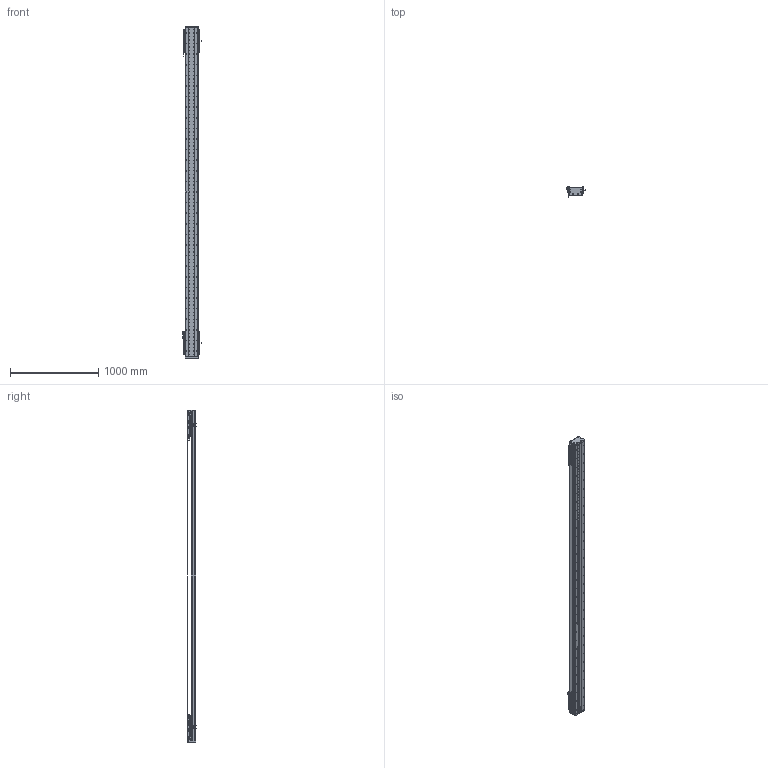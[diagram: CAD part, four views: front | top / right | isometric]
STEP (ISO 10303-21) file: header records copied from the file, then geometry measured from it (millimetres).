
FILE_DESCRIPTION (( 'STEP AP203' ), '1' );
FILE_NAME ('DA-C145-2-C3-T3140-C010-0.2 眻盄萇儂.STEP', '2025-08-14T00:40:06', ( '' ), ( '' ), 'SwSTEP 2.0', 'SolidWorks 2019', '' );
FILE_SCHEMA (( 'CONFIG_CONTROL_DESIGN' ));
Length unit declared in the file: millimetre
Products named in the file (38): 葩璃 CU145 詩湍郪璃^DA-C145-2-C3-T-C010-0.2; IU-CU145-L 菁釱絳寢; 复件 DA145-C3-YB-A-00 压板A^CU145-W 滚珠滑台; DKW-KGZ-ZJ-00 中间光电开关支架; 葩璃 DMA-010-0.2 黍杅芛^DA-C145-2-C3-T-C010-0.2; CU145-W 幗紩賑怢-1; 葩璃 XD-U-02L 棠掑喜^DA-C145-2-C3-T-C010-0.2; 复件 内六角平端紧定螺钉 GB.T77-2000 M5×10^CU145-W 滚珠滑台; DKW168-HXJ-ZJ-00 笢潔滅袉砎蝶; TAY01-M8; CU145-W-00 珨极趙賑雄怢啣; 复件 DA95-MFP-01 密封片^CU145-W 滚珠滑台; 复件 DA146 钢带拉块^复件 CU145 钢带组件_DA-C145-2-C3-T-C010-0.2; 葩璃 PM-T45^DA-C145-2-C3-T-C010-0.2; 葩璃 DA95-GT-T-00^IU-CU145-L 菁釱絳寢; 复件 DA145-C3-DK-00 挡块^CU145-W 滚珠滑台; 葩璃 PM-Y65^DA-C145-2-C3-T-C010-0.2; 复件 DA95-DB-00  挡板^CU145-W 滚珠滑台; 葩璃 CKMA01-W060-TRL^DA-C145-2-C3-T-C010-0.2; 复件 DA145 钢带^复件 CU145 钢带组件_DA-C145-2-C3-T-C010-0.2; 复件 纯铜油杯 6x6mm^CU145-W 滚珠滑台; CU145-W 幗紩賑怢; 葩璃 DA145-C3-DP-A-00 菜えA^CU145-W 幗紩賑怢; IU-CU145-L-00 菁釱(L3720); DA-C145-2-C3-T3140-C010-0.2 眻盄萇儂; 复件 DA145-C3-YB-B-00 压板B^CU145-W 滚珠滑台; 葩璃 鞠褒情蹟譫 M3^DA-C145-2-C3-T-C010-0.2; 葩璃 DA145-C3-DP-B-00 菜えB^CU145-W 幗紩賑怢; 复件 DA95-HK-GT-00 滑块钢轨^CU145-W-00 一体化滑动台板; 葩璃 CKM03-W060-C1C2-TP-0.2^DA-C145-2-C3-T-C010-0.2; CU145-W-00 珨极趙賑雄怢啣-1; 复件 DA146 钢带垫块^复件 CU145 钢带组件_DA-C145-2-C3-T-C010-0.2; 复件 DA145-GYP-00 光电感应片^DA-C145-2-C3-T-C010-0.2; 66245-CU145-HT-W-00 賑雄怢啣(3D芞祧)(00); DKW-GYP-ZJ-00 笢潔嫖萇覜茼え; 复件 DA145-DG 钢带端盖^复件 CU145 钢带组件_DA-C145-2-C3-T-C010-0.2; 复件 半圆头内六角螺钉 M3×6^CU145-W 滚珠滑台; 葩璃 DA95-HXJ-00 遣喳砎蝶^DA-C145-2-C3-T-C010-0.2
Assembly tree (180 placements, depth 4):
  DA-C145-2-C3-T3140-C010-0.2 眻盄萇儂
    IU-CU145-L 菁釱絳寢
      IU-CU145-L-00 菁釱(L3720)
      葩璃 DA95-GT-T-00^IU-CU145-L 菁釱絳寢  x4
    葩璃 CU145 詩湍郪璃^DA-C145-2-C3-T-C010-0.2
      复件 DA145-DG 钢带端盖^复件 CU145 钢带组件_DA-C145-2-C3-T-C010-0.2  x2
      复件 DA146 钢带拉块^复件 CU145 钢带组件_DA-C145-2-C3-T-C010-0.2  x2
      复件 DA146 钢带垫块^复件 CU145 钢带组件_DA-C145-2-C3-T-C010-0.2  x2
      复件 DA145 钢带^复件 CU145 钢带组件_DA-C145-2-C3-T-C010-0.2
    CU145-W 幗紩賑怢
      CU145-W-00 珨极趙賑雄怢啣
        66245-CU145-HT-W-00 賑雄怢啣(3D芞祧)(00)
        复件 DA95-HK-GT-00 滑块钢轨^CU145-W-00 一体化滑动台板  x8
      复件 DA95-MFP-01 密封片^CU145-W 滚珠滑台  x8
      复件 DA95-DB-00  挡板^CU145-W 滚珠滑台  x8
      复件 内六角平端紧定螺钉 GB.T77-2000 M5×10^CU145-W 滚珠滑台  x4
      复件 纯铜油杯 6x6mm^CU145-W 滚珠滑台  x4
      复件 半圆头内六角螺钉 M3×6^CU145-W 滚珠滑台  x16
      复件 DA145-C3-DK-00 挡块^CU145-W 滚珠滑台  x4
      葩璃 DA145-C3-DP-B-00 菜えB^CU145-W 幗紩賑怢  x2
      复件 DA145-C3-YB-B-00 压板B^CU145-W 滚珠滑台  x2
      葩璃 DA145-C3-DP-A-00 菜えA^CU145-W 幗紩賑怢  x3
      复件 DA145-C3-YB-A-00 压板A^CU145-W 滚珠滑台  x3
      TAY01-M8  x4
    CU145-W 幗紩賑怢-1
      CU145-W-00 珨极趙賑雄怢啣-1
        66245-CU145-HT-W-00 賑雄怢啣(3D芞祧)(00)
        复件 DA95-HK-GT-00 滑块钢轨^CU145-W-00 一体化滑动台板  x8
      复件 DA95-MFP-01 密封片^CU145-W 滚珠滑台  x8
      复件 DA95-DB-00  挡板^CU145-W 滚珠滑台  x8
      复件 内六角平端紧定螺钉 GB.T77-2000 M5×10^CU145-W 滚珠滑台  x4
      复件 纯铜油杯 6x6mm^CU145-W 滚珠滑台  x4
      复件 半圆头内六角螺钉 M3×6^CU145-W 滚珠滑台  x16
      复件 DA145-C3-DK-00 挡块^CU145-W 滚珠滑台  x4
      葩璃 DA145-C3-DP-B-00 菜えB^CU145-W 幗紩賑怢  x2
      复件 DA145-C3-YB-B-00 压板B^CU145-W 滚珠滑台  x2
      葩璃 DA145-C3-DP-A-00 菜えA^CU145-W 幗紩賑怢  x3
      复件 DA145-C3-YB-A-00 压板A^CU145-W 滚珠滑台  x3
      TAY01-M8  x4
    葩璃 CKMA01-W060-TRL^DA-C145-2-C3-T-C010-0.2
    葩璃 PM-T45^DA-C145-2-C3-T-C010-0.2  x4
    葩璃 XD-U-02L 棠掑喜^DA-C145-2-C3-T-C010-0.2
    葩璃 DA95-HXJ-00 遣喳砎蝶^DA-C145-2-C3-T-C010-0.2  x4
    葩璃 CKM03-W060-C1C2-TP-0.2^DA-C145-2-C3-T-C010-0.2  x2
    葩璃 DMA-010-0.2 黍杅芛^DA-C145-2-C3-T-C010-0.2  x2
    复件 DA145-GYP-00 光电感应片^DA-C145-2-C3-T-C010-0.2  x2
    DKW-GYP-ZJ-00 笢潔嫖萇覜茼え
    DKW-KGZ-ZJ-00 中间光电开关支架
    葩璃 PM-Y65^DA-C145-2-C3-T-C010-0.2
    葩璃 鞠褒情蹟譫 M3^DA-C145-2-C3-T-C010-0.2  x8
    DKW168-HXJ-ZJ-00 笢潔滅袉砎蝶
Bounding box: 213.7 x 108.45 x 3756 mm (x, y, z)
Volume: 18647373.6 mm3; surface area: 6107621.6 mm2
Topology: 175 solids, 239 shells, 8012 faces, 22353 edges, 13921 vertices
Faces by surface type: cylinder 3703, plane 2969, cone 1184, torus 140, sphere 8, bspline 8
Entity records: 167504 total; most frequent: CARTESIAN_POINT 51668, ORIENTED_EDGE 23392, DIRECTION 21649, EDGE_CURVE 11696, AXIS2_PLACEMENT_3D 8013, VERTEX_POINT 7620, VECTOR 5623, LINE 5623
